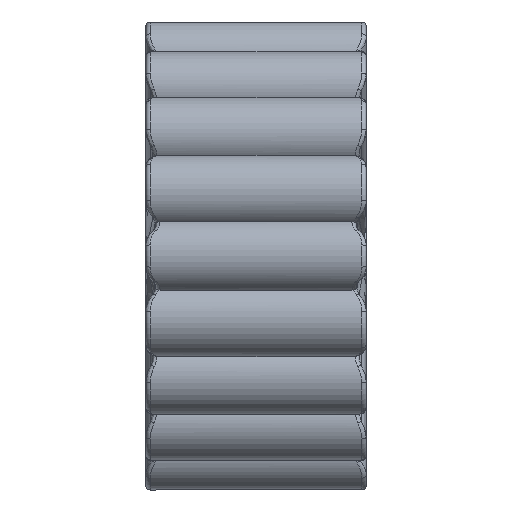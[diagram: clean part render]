
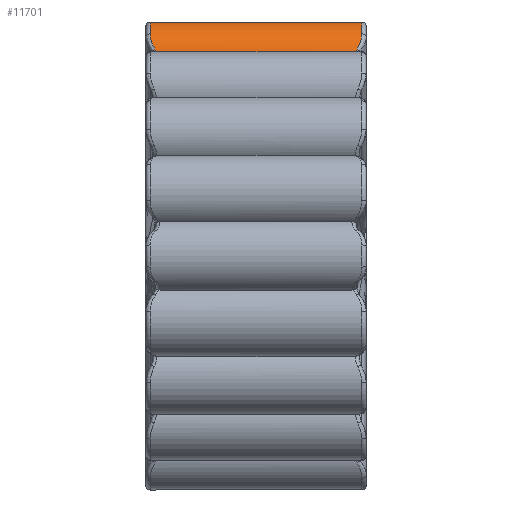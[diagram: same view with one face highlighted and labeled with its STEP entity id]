
A CAD part, front view. The second image highlights one B-rep face of the part: STEP entity #11701.
In plain terms, the highlighted cylindrical face has radius 17 mm (diameter 34 mm), a partial arc.
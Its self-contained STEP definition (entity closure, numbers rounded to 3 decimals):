
#96 = CARTESIAN_POINT ( 'NONE',  ( -269.951, -155.174, 1206.116 ) ) ;
#129 = AXIS2_PLACEMENT_3D ( 'NONE', #8592, #404, #15297 ) ;
#393 = CARTESIAN_POINT ( 'NONE',  ( -271.951, -155.174, 1206.116 ) ) ;
#404 = DIRECTION ( 'NONE',  ( -1., 0., 0. ) ) ;
#466 = CARTESIAN_POINT ( 'NONE',  ( -176.997, -172.04, 1191.341 ) ) ;
#584 = CARTESIAN_POINT ( 'NONE',  ( -177.54, -172.149, 1190.031 ) ) ;
#736 = EDGE_CURVE ( 'NONE', #1013, #2122, #6538, .T. ) ;
#799 = LINE ( 'NONE', #16364, #4371 ) ;
#933 = CARTESIAN_POINT ( 'NONE',  ( -173.951, -167.606, 1200.71 ) ) ;
#998 = CARTESIAN_POINT ( 'NONE',  ( -175.785, -171.335, 1194.426 ) ) ;
#1013 = VERTEX_POINT ( 'NONE', #11054 ) ;
#1056 = CARTESIAN_POINT ( 'NONE',  ( -175.498, -171.127, 1195.023 ) ) ;
#1119 = CARTESIAN_POINT ( 'NONE',  ( -267.8, -171.508, 1193.826 ) ) ;
#1147 = CARTESIAN_POINT ( 'NONE',  ( -268.116, -171.335, 1194.426 ) ) ;
#1442 = CARTESIAN_POINT ( 'NONE',  ( -173.951, -167.606, 1200.71 ) ) ;
#1467 = FACE_OUTER_BOUND ( 'NONE', #8181, .T. ) ;
#2029 = DIRECTION ( 'NONE',  ( 0., 0., -1. ) ) ;
#2122 = VERTEX_POINT ( 'NONE', #12858 ) ;
#2226 = CARTESIAN_POINT ( 'NONE',  ( -267.491, -171.677, 1193.239 ) ) ;
#2256 = CARTESIAN_POINT ( 'NONE',  ( -266.47, -172.149, 1190.031 ) ) ;
#2293 = CARTESIAN_POINT ( 'NONE',  ( -174.384, -169.692, 1197.968 ) ) ;
#2321 = CARTESIAN_POINT ( 'NONE',  ( -269.951, -168.086, 1200.196 ) ) ;
#2437 = EDGE_CURVE ( 'NONE', #2122, #15302, #8817, .T. ) ;
#2487 = AXIS2_PLACEMENT_3D ( 'NONE', #14361, #11569, #14182 ) ;
#2952 = EDGE_CURVE ( 'NONE', #3243, #16248, #14278, .T. ) ;
#3093 = DIRECTION ( 'NONE',  ( 1., 0., 0. ) ) ;
#3243 = VERTEX_POINT ( 'NONE', #12998 ) ;
#3536 = CARTESIAN_POINT ( 'NONE',  ( -269.951, -167.606, 1200.71 ) ) ;
#3716 = CARTESIAN_POINT ( 'NONE',  ( -177.217, -172.151, 1190.001 ) ) ;
#3954 = EDGE_CURVE ( 'NONE', #15517, #5553, #6400, .T. ) ;
#4371 = VECTOR ( 'NONE', #16645, 1000. ) ;
#4703 = ORIENTED_EDGE ( 'NONE', *, *, #17145, .T. ) ;
#4743 = B_SPLINE_CURVE_WITH_KNOTS ( 'NONE', 3,
 ( #1119, #2226, #10449, #9063, #17221, #15872 ),
 .UNSPECIFIED., .F., .F.,
 ( 4, 2, 4 ),
 ( 0., 0.002, 0.004 ),
 .UNSPECIFIED. ) ;
#4962 = ORIENTED_EDGE ( 'NONE', *, *, #3954, .F. ) ;
#5094 = CARTESIAN_POINT ( 'NONE',  ( -269.734, -169.132, 1198.826 ) ) ;
#5106 = CARTESIAN_POINT ( 'NONE',  ( -177.323, -172.149, 1190.021 ) ) ;
#5553 = VERTEX_POINT ( 'NONE', #12293 ) ;
#5974 = ORIENTED_EDGE ( 'NONE', *, *, #14908, .T. ) ;
#6400 = LINE ( 'NONE', #393, #7424 ) ;
#6441 = CARTESIAN_POINT ( 'NONE',  ( -268.917, -170.637, 1196.209 ) ) ;
#6475 = CARTESIAN_POINT ( 'NONE',  ( -176.102, -171.508, 1193.826 ) ) ;
#6538 = B_SPLINE_CURVE_WITH_KNOTS ( 'NONE', 3,
 ( #584, #11429, #5106, #3716 ),
 .UNSPECIFIED., .F., .F.,
 ( 4, 4 ),
 ( 0., 0. ),
 .UNSPECIFIED. ) ;
#6551 = CARTESIAN_POINT ( 'NONE',  ( -269.669, -169.325, 1198.543 ) ) ;
#6843 = EDGE_CURVE ( 'NONE', #15302, #7699, #8549, .T. ) ;
#7000 = CARTESIAN_POINT ( 'NONE',  ( -176.102, -171.508, 1193.826 ) ) ;
#7056 = CARTESIAN_POINT ( 'NONE',  ( -177.124, -172.115, 1190.675 ) ) ;
#7176 = EDGE_CURVE ( 'NONE', #15517, #17151, #8662, .T. ) ;
#7424 = VECTOR ( 'NONE', #3093, 1000. ) ;
#7461 = AXIS2_PLACEMENT_3D ( 'NONE', #11533, #12852, #2029 ) ;
#7649 = CARTESIAN_POINT ( 'NONE',  ( -266.362, -172.149, 1190.031 ) ) ;
#7693 = CARTESIAN_POINT ( 'NONE',  ( -266.362, -172.149, 1190.031 ) ) ;
#7699 = VERTEX_POINT ( 'NONE', #1442 ) ;
#7748 = CARTESIAN_POINT ( 'NONE',  ( -174.984, -170.637, 1196.209 ) ) ;
#7931 = ORIENTED_EDGE ( 'NONE', *, *, #16092, .T. ) ;
#8016 = B_SPLINE_CURVE_WITH_KNOTS ( 'NONE', 3,
 ( #3536, #2321, #17311, #5094, #6551, #14551, #15846, #17197, #6441, #16035, #1147, #9153 ),
 .UNSPECIFIED., .F., .F.,
 ( 4, 2, 2, 2, 2, 4 ),
 ( 0., 0.002, 0.003, 0.004, 0.006, 0.008 ),
 .UNSPECIFIED. ) ;
#8113 = ORIENTED_EDGE ( 'NONE', *, *, #2952, .T. ) ;
#8181 = EDGE_LOOP ( 'NONE', ( #4962, #15551, #5974, #14459, #8113, #7931, #10570, #16132, #16080, #4703 ) ) ;
#8339 = CIRCLE ( 'NONE', #129, 17. ) ;
#8383 = CARTESIAN_POINT ( 'NONE',  ( -267.8, -171.508, 1193.826 ) ) ;
#8408 = CARTESIAN_POINT ( 'NONE',  ( -176.64, -171.821, 1192.621 ) ) ;
#8549 = B_SPLINE_CURVE_WITH_KNOTS ( 'NONE', 3,
 ( #6475, #998, #1056, #7748, #10505, #11791, #2293, #11920, #13225, #15874, #15819, #933 ),
 .UNSPECIFIED., .F., .F.,
 ( 4, 2, 2, 2, 2, 4 ),
 ( 0., 0.002, 0.004, 0.005, 0.006, 0.008 ),
 .UNSPECIFIED. ) ;
#8592 = CARTESIAN_POINT ( 'NONE',  ( -173.951, -155.174, 1189.116 ) ) ;
#8662 = CIRCLE ( 'NONE', #7461, 17. ) ;
#8817 = B_SPLINE_CURVE_WITH_KNOTS ( 'NONE', 3,
 ( #15178, #7056, #466, #8408, #9776, #15300 ),
 .UNSPECIFIED., .F., .F.,
 ( 4, 2, 4 ),
 ( 0., 0.002, 0.004 ),
 .UNSPECIFIED. ) ;
#8868 = CYLINDRICAL_SURFACE ( 'NONE', #2487, 17. ) ;
#8892 = VERTEX_POINT ( 'NONE', #8383 ) ;
#9063 = CARTESIAN_POINT ( 'NONE',  ( -266.905, -172.04, 1191.341 ) ) ;
#9153 = CARTESIAN_POINT ( 'NONE',  ( -267.8, -171.508, 1193.826 ) ) ;
#9776 = CARTESIAN_POINT ( 'NONE',  ( -176.411, -171.677, 1193.239 ) ) ;
#10449 = CARTESIAN_POINT ( 'NONE',  ( -267.262, -171.821, 1192.621 ) ) ;
#10505 = CARTESIAN_POINT ( 'NONE',  ( -174.757, -170.354, 1196.798 ) ) ;
#10570 = ORIENTED_EDGE ( 'NONE', *, *, #736, .T. ) ;
#11054 = CARTESIAN_POINT ( 'NONE',  ( -177.54, -172.149, 1190.031 ) ) ;
#11429 = CARTESIAN_POINT ( 'NONE',  ( -177.431, -172.149, 1190.031 ) ) ;
#11533 = CARTESIAN_POINT ( 'NONE',  ( -269.951, -155.174, 1189.116 ) ) ;
#11569 = DIRECTION ( 'NONE',  ( 1., 0., 0. ) ) ;
#11701 = ADVANCED_FACE ( 'NONE', ( #1467 ), #8868, .T. ) ;
#11791 = CARTESIAN_POINT ( 'NONE',  ( -174.471, -169.866, 1197.675 ) ) ;
#11920 = CARTESIAN_POINT ( 'NONE',  ( -174.232, -169.324, 1198.544 ) ) ;
#12293 = CARTESIAN_POINT ( 'NONE',  ( -173.951, -155.174, 1206.116 ) ) ;
#12852 = DIRECTION ( 'NONE',  ( 1., 0., 0. ) ) ;
#12858 = CARTESIAN_POINT ( 'NONE',  ( -177.217, -172.151, 1190.001 ) ) ;
#12998 = CARTESIAN_POINT ( 'NONE',  ( -266.685, -172.151, 1190.001 ) ) ;
#13225 = CARTESIAN_POINT ( 'NONE',  ( -174.168, -169.132, 1198.827 ) ) ;
#14182 = DIRECTION ( 'NONE',  ( 0., 0., 1. ) ) ;
#14278 = B_SPLINE_CURVE_WITH_KNOTS ( 'NONE', 3,
 ( #16448, #14675, #2256, #7649 ),
 .UNSPECIFIED., .F., .F.,
 ( 4, 4 ),
 ( 0., 0. ),
 .UNSPECIFIED. ) ;
#14361 = CARTESIAN_POINT ( 'NONE',  ( -271.951, -155.174, 1189.116 ) ) ;
#14417 = EDGE_CURVE ( 'NONE', #8892, #3243, #4743, .T. ) ;
#14459 = ORIENTED_EDGE ( 'NONE', *, *, #14417, .T. ) ;
#14551 = CARTESIAN_POINT ( 'NONE',  ( -269.517, -169.692, 1197.967 ) ) ;
#14675 = CARTESIAN_POINT ( 'NONE',  ( -266.578, -172.149, 1190.021 ) ) ;
#14908 = EDGE_CURVE ( 'NONE', #17151, #8892, #8016, .T. ) ;
#15178 = CARTESIAN_POINT ( 'NONE',  ( -177.217, -172.151, 1190.001 ) ) ;
#15297 = DIRECTION ( 'NONE',  ( 0., 0., -1. ) ) ;
#15300 = CARTESIAN_POINT ( 'NONE',  ( -176.102, -171.508, 1193.826 ) ) ;
#15302 = VERTEX_POINT ( 'NONE', #7000 ) ;
#15476 = CARTESIAN_POINT ( 'NONE',  ( -269.951, -167.606, 1200.71 ) ) ;
#15517 = VERTEX_POINT ( 'NONE', #96 ) ;
#15551 = ORIENTED_EDGE ( 'NONE', *, *, #7176, .T. ) ;
#15819 = CARTESIAN_POINT ( 'NONE',  ( -173.951, -168.086, 1200.196 ) ) ;
#15846 = CARTESIAN_POINT ( 'NONE',  ( -269.43, -169.866, 1197.674 ) ) ;
#15872 = CARTESIAN_POINT ( 'NONE',  ( -266.685, -172.151, 1190.001 ) ) ;
#15874 = CARTESIAN_POINT ( 'NONE',  ( -174.009, -168.526, 1199.66 ) ) ;
#16035 = CARTESIAN_POINT ( 'NONE',  ( -268.403, -171.127, 1195.023 ) ) ;
#16080 = ORIENTED_EDGE ( 'NONE', *, *, #6843, .T. ) ;
#16092 = EDGE_CURVE ( 'NONE', #16248, #1013, #799, .T. ) ;
#16132 = ORIENTED_EDGE ( 'NONE', *, *, #2437, .T. ) ;
#16248 = VERTEX_POINT ( 'NONE', #7693 ) ;
#16364 = CARTESIAN_POINT ( 'NONE',  ( -271.951, -172.149, 1190.031 ) ) ;
#16448 = CARTESIAN_POINT ( 'NONE',  ( -266.685, -172.151, 1190.001 ) ) ;
#16645 = DIRECTION ( 'NONE',  ( 1., 0., 0. ) ) ;
#17145 = EDGE_CURVE ( 'NONE', #7699, #5553, #8339, .T. ) ;
#17151 = VERTEX_POINT ( 'NONE', #15476 ) ;
#17197 = CARTESIAN_POINT ( 'NONE',  ( -269.144, -170.354, 1196.797 ) ) ;
#17221 = CARTESIAN_POINT ( 'NONE',  ( -266.777, -172.115, 1190.675 ) ) ;
#17311 = CARTESIAN_POINT ( 'NONE',  ( -269.892, -168.526, 1199.66 ) ) ;
